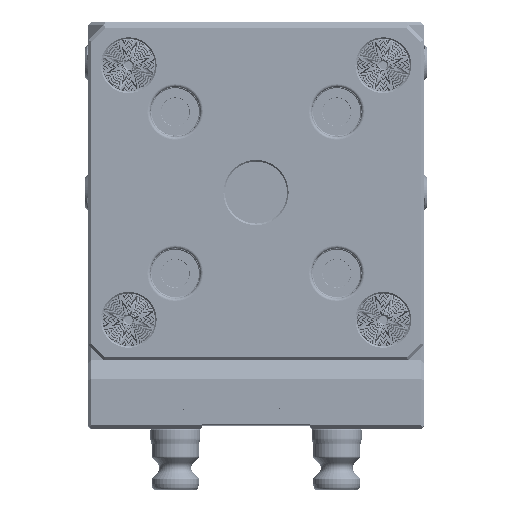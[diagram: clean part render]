
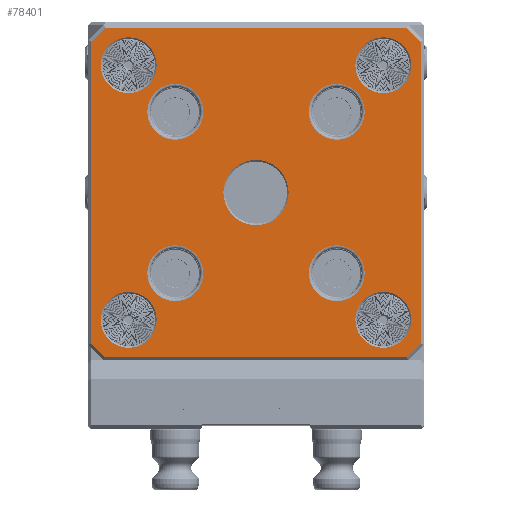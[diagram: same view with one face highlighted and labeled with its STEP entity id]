
A CAD part, top view. The second image highlights one B-rep face of the part: STEP entity #78401.
In plain terms, the highlighted planar face has unit normal (0, 0, 1).
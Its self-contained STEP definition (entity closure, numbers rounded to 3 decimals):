
#6533=CARTESIAN_POINT('',(26.,142.,47.5));
#6534=DIRECTION('',(0.,0.,-1.));
#6535=DIRECTION('',(0.,-1.,0.));
#6536=AXIS2_PLACEMENT_3D('',#6533,#6534,#6535);
#6538=CARTESIAN_POINT('',(26.,142.,47.5));
#6539=DIRECTION('',(0.,0.,-1.));
#6540=DIRECTION('',(0.,1.,0.));
#6541=AXIS2_PLACEMENT_3D('',#6538,#6539,#6540);
#6543=CARTESIAN_POINT('',(26.,90.,47.5));
#6544=DIRECTION('',(0.,0.,-1.));
#6545=DIRECTION('',(0.,-1.,0.));
#6546=AXIS2_PLACEMENT_3D('',#6543,#6544,#6545);
#6548=CARTESIAN_POINT('',(26.,90.,47.5));
#6549=DIRECTION('',(0.,0.,-1.));
#6550=DIRECTION('',(0.,1.,0.));
#6551=AXIS2_PLACEMENT_3D('',#6548,#6549,#6550);
#6553=CARTESIAN_POINT('',(-26.,90.,47.5));
#6554=DIRECTION('',(0.,0.,-1.));
#6555=DIRECTION('',(0.,-1.,0.));
#6556=AXIS2_PLACEMENT_3D('',#6553,#6554,#6555);
#6558=CARTESIAN_POINT('',(-26.,90.,47.5));
#6559=DIRECTION('',(0.,0.,-1.));
#6560=DIRECTION('',(0.,1.,0.));
#6561=AXIS2_PLACEMENT_3D('',#6558,#6559,#6560);
#6563=CARTESIAN_POINT('',(-26.,142.,47.5));
#6564=DIRECTION('',(0.,0.,-1.));
#6565=DIRECTION('',(0.,-1.,0.));
#6566=AXIS2_PLACEMENT_3D('',#6563,#6564,#6565);
#6568=CARTESIAN_POINT('',(-26.,142.,47.5));
#6569=DIRECTION('',(0.,0.,-1.));
#6570=DIRECTION('',(0.,1.,0.));
#6571=AXIS2_PLACEMENT_3D('',#6568,#6569,#6570);
#6573=CARTESIAN_POINT('',(0.,116.,47.5));
#6574=DIRECTION('',(0.,0.,-1.));
#6575=DIRECTION('',(0.,-1.,0.));
#6576=AXIS2_PLACEMENT_3D('',#6573,#6574,#6575);
#6578=CARTESIAN_POINT('',(0.,116.,47.5));
#6579=DIRECTION('',(0.,0.,-1.));
#6580=DIRECTION('',(0.,1.,0.));
#6581=AXIS2_PLACEMENT_3D('',#6578,#6579,#6580);
#6583=DIRECTION('',(-0.707,0.707,0.));
#6584=VECTOR('',#6583,6.243);
#6585=CARTESIAN_POINT('',(53.,164.586,47.5));
#6586=LINE('',#6585,#6584);
#6587=DIRECTION('',(0.,1.,0.));
#6588=VECTOR('',#6587,97.172);
#6589=CARTESIAN_POINT('',(53.,67.414,47.5));
#6590=LINE('',#6589,#6588);
#6591=DIRECTION('',(0.707,0.707,0.));
#6592=VECTOR('',#6591,6.243);
#6593=CARTESIAN_POINT('',(48.586,63.,47.5));
#6594=LINE('',#6593,#6592);
#6595=DIRECTION('',(1.,0.,0.));
#6596=VECTOR('',#6595,97.172);
#6597=CARTESIAN_POINT('',(-48.586,63.,47.5));
#6598=LINE('',#6597,#6596);
#6599=DIRECTION('',(0.707,-0.707,0.));
#6600=VECTOR('',#6599,6.243);
#6601=CARTESIAN_POINT('',(-53.,67.414,47.5));
#6602=LINE('',#6601,#6600);
#6603=DIRECTION('',(0.,-1.,0.));
#6604=VECTOR('',#6603,97.172);
#6605=CARTESIAN_POINT('',(-53.,164.586,47.5));
#6606=LINE('',#6605,#6604);
#6607=DIRECTION('',(-0.707,-0.707,0.));
#6608=VECTOR('',#6607,6.243);
#6609=CARTESIAN_POINT('',(-48.586,169.,47.5));
#6610=LINE('',#6609,#6608);
#6611=DIRECTION('',(-1.,0.,0.));
#6612=VECTOR('',#6611,97.172);
#6613=CARTESIAN_POINT('',(48.586,169.,47.5));
#6614=LINE('',#6613,#6612);
#6615=CARTESIAN_POINT('',(41.,157.,47.5));
#6616=DIRECTION('',(0.,0.,-1.));
#6617=DIRECTION('',(1.,0.,0.));
#6618=AXIS2_PLACEMENT_3D('',#6615,#6616,#6617);
#6620=CARTESIAN_POINT('',(41.,157.,47.5));
#6621=DIRECTION('',(0.,0.,-1.));
#6622=DIRECTION('',(-1.,0.,0.));
#6623=AXIS2_PLACEMENT_3D('',#6620,#6621,#6622);
#6625=CARTESIAN_POINT('',(41.,75.,47.5));
#6626=DIRECTION('',(0.,0.,-1.));
#6627=DIRECTION('',(1.,0.,0.));
#6628=AXIS2_PLACEMENT_3D('',#6625,#6626,#6627);
#6630=CARTESIAN_POINT('',(41.,75.,47.5));
#6631=DIRECTION('',(0.,0.,-1.));
#6632=DIRECTION('',(-1.,0.,0.));
#6633=AXIS2_PLACEMENT_3D('',#6630,#6631,#6632);
#6635=CARTESIAN_POINT('',(-41.,75.,47.5));
#6636=DIRECTION('',(0.,0.,-1.));
#6637=DIRECTION('',(1.,0.,0.));
#6638=AXIS2_PLACEMENT_3D('',#6635,#6636,#6637);
#6640=CARTESIAN_POINT('',(-41.,75.,47.5));
#6641=DIRECTION('',(0.,0.,-1.));
#6642=DIRECTION('',(-1.,0.,0.));
#6643=AXIS2_PLACEMENT_3D('',#6640,#6641,#6642);
#6645=CARTESIAN_POINT('',(-41.,157.,47.5));
#6646=DIRECTION('',(0.,0.,-1.));
#6647=DIRECTION('',(-1.,0.,0.));
#6648=AXIS2_PLACEMENT_3D('',#6645,#6646,#6647);
#6650=CARTESIAN_POINT('',(-41.,157.,47.5));
#6651=DIRECTION('',(0.,0.,-1.));
#6652=DIRECTION('',(1.,0.,0.));
#6653=AXIS2_PLACEMENT_3D('',#6650,#6651,#6652);
#59390=CARTESIAN_POINT('',(26.,133.,47.5));
#59391=CARTESIAN_POINT('',(26.,151.,47.5));
#59392=VERTEX_POINT('',#59390);
#59393=VERTEX_POINT('',#59391);
#59398=CARTESIAN_POINT('',(26.,81.,47.5));
#59399=CARTESIAN_POINT('',(26.,99.,47.5));
#59400=VERTEX_POINT('',#59398);
#59401=VERTEX_POINT('',#59399);
#59406=CARTESIAN_POINT('',(-26.,81.,47.5));
#59407=CARTESIAN_POINT('',(-26.,99.,47.5));
#59408=VERTEX_POINT('',#59406);
#59409=VERTEX_POINT('',#59407);
#59414=CARTESIAN_POINT('',(-26.,133.,47.5));
#59415=CARTESIAN_POINT('',(-26.,151.,47.5));
#59416=VERTEX_POINT('',#59414);
#59417=VERTEX_POINT('',#59415);
#59422=CARTESIAN_POINT('',(0.,105.5,47.5));
#59423=CARTESIAN_POINT('',(0.,126.5,47.5));
#59424=VERTEX_POINT('',#59422);
#59425=VERTEX_POINT('',#59423);
#59554=CARTESIAN_POINT('',(53.,164.586,47.5));
#59555=CARTESIAN_POINT('',(48.586,169.,47.5));
#59556=VERTEX_POINT('',#59554);
#59557=VERTEX_POINT('',#59555);
#59560=CARTESIAN_POINT('',(-48.586,169.,47.5));
#59561=VERTEX_POINT('',#59560);
#59564=CARTESIAN_POINT('',(-53.,164.586,47.5));
#59565=VERTEX_POINT('',#59564);
#59568=CARTESIAN_POINT('',(-53.,67.414,47.5));
#59569=VERTEX_POINT('',#59568);
#59572=CARTESIAN_POINT('',(-48.586,63.,47.5));
#59573=VERTEX_POINT('',#59572);
#59576=CARTESIAN_POINT('',(48.586,63.,47.5));
#59577=VERTEX_POINT('',#59576);
#59578=CARTESIAN_POINT('',(53.,67.414,47.5));
#59579=VERTEX_POINT('',#59578);
#59710=CARTESIAN_POINT('',(50.,157.,47.5));
#59711=CARTESIAN_POINT('',(32.,157.,47.5));
#59712=VERTEX_POINT('',#59710);
#59713=VERTEX_POINT('',#59711);
#59718=CARTESIAN_POINT('',(50.,75.,47.5));
#59719=CARTESIAN_POINT('',(32.,75.,47.5));
#59720=VERTEX_POINT('',#59718);
#59721=VERTEX_POINT('',#59719);
#59726=CARTESIAN_POINT('',(-32.,75.,47.5));
#59727=CARTESIAN_POINT('',(-50.,75.,47.5));
#59728=VERTEX_POINT('',#59726);
#59729=VERTEX_POINT('',#59727);
#59734=CARTESIAN_POINT('',(-50.,157.,47.5));
#59735=CARTESIAN_POINT('',(-32.,157.,47.5));
#59736=VERTEX_POINT('',#59734);
#59737=VERTEX_POINT('',#59735);
#78325=CARTESIAN_POINT('',(0.,116.,47.5));
#78326=DIRECTION('',(0.,0.,1.));
#78327=DIRECTION('',(0.,-1.,0.));
#78328=AXIS2_PLACEMENT_3D('',#78325,#78326,#78327);
#78329=PLANE('',#78328);
#78331=ORIENTED_EDGE('',*,*,#78330,.F.);
#78333=ORIENTED_EDGE('',*,*,#78332,.F.);
#78335=ORIENTED_EDGE('',*,*,#78334,.F.);
#78337=ORIENTED_EDGE('',*,*,#78336,.F.);
#78339=ORIENTED_EDGE('',*,*,#78338,.F.);
#78341=ORIENTED_EDGE('',*,*,#78340,.F.);
#78343=ORIENTED_EDGE('',*,*,#78342,.F.);
#78345=ORIENTED_EDGE('',*,*,#78344,.F.);
#78346=EDGE_LOOP('',(#78331,#78333,#78335,#78337,#78339,#78341,#78343,#78345));
#78347=FACE_OUTER_BOUND('',#78346,.F.);
#78349=ORIENTED_EDGE('',*,*,#78348,.F.);
#78351=ORIENTED_EDGE('',*,*,#78350,.F.);
#78352=EDGE_LOOP('',(#78349,#78351));
#78353=FACE_BOUND('',#78352,.F.);
#78355=ORIENTED_EDGE('',*,*,#78354,.F.);
#78357=ORIENTED_EDGE('',*,*,#78356,.F.);
#78358=EDGE_LOOP('',(#78355,#78357));
#78359=FACE_BOUND('',#78358,.F.);
#78361=ORIENTED_EDGE('',*,*,#78360,.F.);
#78363=ORIENTED_EDGE('',*,*,#78362,.F.);
#78364=EDGE_LOOP('',(#78361,#78363));
#78365=FACE_BOUND('',#78364,.F.);
#78366=ORIENTED_EDGE('',*,*,#78315,.F.);
#78368=ORIENTED_EDGE('',*,*,#78367,.F.);
#78369=EDGE_LOOP('',(#78366,#78368));
#78370=FACE_BOUND('',#78369,.F.);
#78372=ORIENTED_EDGE('',*,*,#78371,.F.);
#78374=ORIENTED_EDGE('',*,*,#78373,.F.);
#78375=EDGE_LOOP('',(#78372,#78374));
#78376=FACE_BOUND('',#78375,.F.);
#78378=ORIENTED_EDGE('',*,*,#78377,.F.);
#78380=ORIENTED_EDGE('',*,*,#78379,.F.);
#78381=EDGE_LOOP('',(#78378,#78380));
#78382=FACE_BOUND('',#78381,.F.);
#78384=ORIENTED_EDGE('',*,*,#78383,.F.);
#78386=ORIENTED_EDGE('',*,*,#78385,.F.);
#78387=EDGE_LOOP('',(#78384,#78386));
#78388=FACE_BOUND('',#78387,.F.);
#78390=ORIENTED_EDGE('',*,*,#78389,.F.);
#78392=ORIENTED_EDGE('',*,*,#78391,.F.);
#78393=EDGE_LOOP('',(#78390,#78392));
#78394=FACE_BOUND('',#78393,.F.);
#78396=ORIENTED_EDGE('',*,*,#78395,.F.);
#78398=ORIENTED_EDGE('',*,*,#78397,.F.);
#78399=EDGE_LOOP('',(#78396,#78398));
#78400=FACE_BOUND('',#78399,.F.);
#78401=ADVANCED_FACE('',(#78347,#78353,#78359,#78365,#78370,#78376,#78382,
#78388,#78394,#78400),#78329,.T.);
#6537=CIRCLE('',#6536,9.);
#6542=CIRCLE('',#6541,9.);
#6547=CIRCLE('',#6546,9.);
#6552=CIRCLE('',#6551,9.);
#6557=CIRCLE('',#6556,9.);
#6562=CIRCLE('',#6561,9.);
#6567=CIRCLE('',#6566,9.);
#6572=CIRCLE('',#6571,9.);
#6577=CIRCLE('',#6576,10.5);
#6582=CIRCLE('',#6581,10.5);
#6619=CIRCLE('',#6618,9.);
#6624=CIRCLE('',#6623,9.);
#6629=CIRCLE('',#6628,9.);
#6634=CIRCLE('',#6633,9.);
#6639=CIRCLE('',#6638,9.);
#6644=CIRCLE('',#6643,9.);
#6649=CIRCLE('',#6648,9.);
#6654=CIRCLE('',#6653,9.);
#78315=EDGE_CURVE('',#59424,#59425,#6577,.T.);
#78330=EDGE_CURVE('',#59556,#59557,#6586,.T.);
#78332=EDGE_CURVE('',#59579,#59556,#6590,.T.);
#78334=EDGE_CURVE('',#59577,#59579,#6594,.T.);
#78336=EDGE_CURVE('',#59573,#59577,#6598,.T.);
#78338=EDGE_CURVE('',#59569,#59573,#6602,.T.);
#78340=EDGE_CURVE('',#59565,#59569,#6606,.T.);
#78342=EDGE_CURVE('',#59561,#59565,#6610,.T.);
#78344=EDGE_CURVE('',#59557,#59561,#6614,.T.);
#78348=EDGE_CURVE('',#59400,#59401,#6547,.T.);
#78350=EDGE_CURVE('',#59401,#59400,#6552,.T.);
#78354=EDGE_CURVE('',#59408,#59409,#6557,.T.);
#78356=EDGE_CURVE('',#59409,#59408,#6562,.T.);
#78360=EDGE_CURVE('',#59416,#59417,#6567,.T.);
#78362=EDGE_CURVE('',#59417,#59416,#6572,.T.);
#78367=EDGE_CURVE('',#59425,#59424,#6582,.T.);
#78371=EDGE_CURVE('',#59392,#59393,#6537,.T.);
#78373=EDGE_CURVE('',#59393,#59392,#6542,.T.);
#78377=EDGE_CURVE('',#59712,#59713,#6619,.T.);
#78379=EDGE_CURVE('',#59713,#59712,#6624,.T.);
#78383=EDGE_CURVE('',#59720,#59721,#6629,.T.);
#78385=EDGE_CURVE('',#59721,#59720,#6634,.T.);
#78389=EDGE_CURVE('',#59728,#59729,#6639,.T.);
#78391=EDGE_CURVE('',#59729,#59728,#6644,.T.);
#78395=EDGE_CURVE('',#59736,#59737,#6649,.T.);
#78397=EDGE_CURVE('',#59737,#59736,#6654,.T.);
